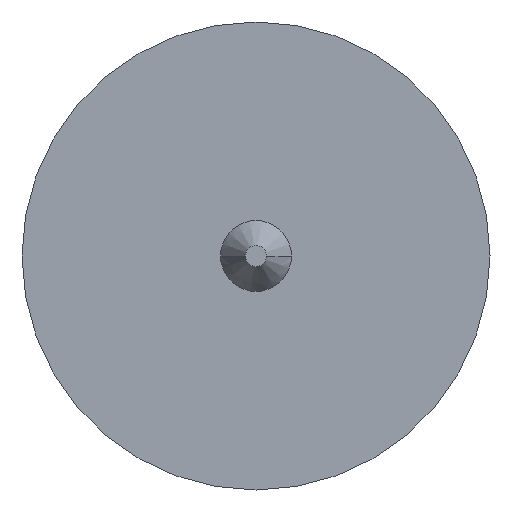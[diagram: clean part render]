
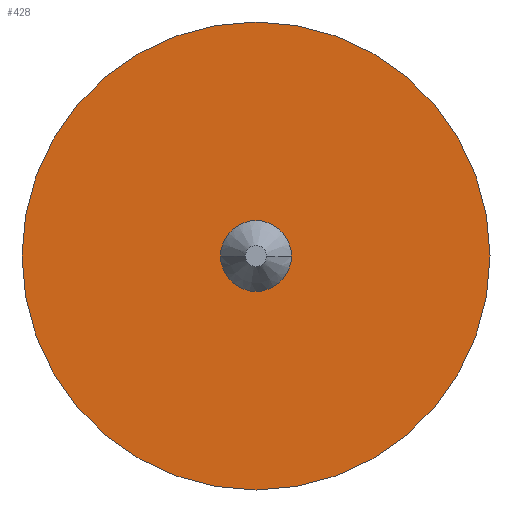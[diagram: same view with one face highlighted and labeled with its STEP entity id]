
A CAD part, front view. The second image highlights one B-rep face of the part: STEP entity #428.
In plain terms, the highlighted planar face has unit normal (0, -1, 0).
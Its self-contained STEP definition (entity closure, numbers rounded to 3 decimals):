
#71 = CARTESIAN_POINT ( 'NONE',  ( -25., -30., 0. ) ) ;
#77 = CARTESIAN_POINT ( 'NONE',  ( -165., -30., 0. ) ) ;
#84 = CARTESIAN_POINT ( 'NONE',  ( 0., -30., 0. ) ) ;
#85 = DIRECTION ( 'NONE',  ( 0., 1., 0. ) ) ;
#86 = DIRECTION ( 'NONE',  ( -1., 0., 0. ) ) ;
#87 = CARTESIAN_POINT ( 'NONE',  ( 0., -30., 0. ) ) ;
#88 = DIRECTION ( 'NONE',  ( 0., 1., 0. ) ) ;
#89 = DIRECTION ( 'NONE',  ( -1., 0., 0. ) ) ;
#125 = CARTESIAN_POINT ( 'NONE',  ( 78.654, -30., 0. ) ) ;
#128 = CARTESIAN_POINT ( 'NONE',  ( 0., -30., 0. ) ) ;
#129 = FACE_OUTER_BOUND ( 'NONE', #284, .T. ) ;
#130 = FACE_BOUND ( 'NONE', #275, .T. ) ;
#131 = PLANE ( 'NONE',  #205 ) ;
#133 = DIRECTION ( 'NONE',  ( 0., 1., 0. ) ) ;
#134 = DIRECTION ( 'NONE',  ( -1., 0., 0. ) ) ;
#153 = AXIS2_PLACEMENT_3D ( 'NONE', #84, #85, #86 ) ;
#158 = AXIS2_PLACEMENT_3D ( 'NONE', #87, #88, #89 ) ;
#169 = AXIS2_PLACEMENT_3D ( 'NONE', #324, #325, #326 ) ;
#171 = CIRCLE ( 'NONE', #169, 25. ) ;
#175 = AXIS2_PLACEMENT_3D ( 'NONE', #128, #314, #315 ) ;
#177 = CIRCLE ( 'NONE', #175, 165. ) ;
#205 = AXIS2_PLACEMENT_3D ( 'NONE', #125, #133, #134 ) ;
#209 = CIRCLE ( 'NONE', #158, 25. ) ;
#211 = CIRCLE ( 'NONE', #153, 165. ) ;
#243 = ORIENTED_EDGE ( 'NONE', *, *, #449, .T. ) ;
#244 = ORIENTED_EDGE ( 'NONE', *, *, #418, .T. ) ;
#245 = ORIENTED_EDGE ( 'NONE', *, *, #417, .F. ) ;
#246 = ORIENTED_EDGE ( 'NONE', *, *, #444, .F. ) ;
#275 = EDGE_LOOP ( 'NONE', ( #244, #243 ) ) ;
#279 = VERTEX_POINT ( 'NONE', #71 ) ;
#284 = EDGE_LOOP ( 'NONE', ( #246, #245 ) ) ;
#310 = VERTEX_POINT ( 'NONE', #77 ) ;
#314 = DIRECTION ( 'NONE',  ( 0., 1., 0. ) ) ;
#315 = DIRECTION ( 'NONE',  ( -1., 0., 0. ) ) ;
#324 = CARTESIAN_POINT ( 'NONE',  ( 0., -30., 0. ) ) ;
#325 = DIRECTION ( 'NONE',  ( 0., 1., 0. ) ) ;
#326 = DIRECTION ( 'NONE',  ( -1., 0., 0. ) ) ;
#341 = CARTESIAN_POINT ( 'NONE',  ( 165., -30., 0. ) ) ;
#346 = CARTESIAN_POINT ( 'NONE',  ( 25., -30., 0. ) ) ;
#417 = EDGE_CURVE ( 'NONE', #464, #310, #211, .T. ) ;
#418 = EDGE_CURVE ( 'NONE', #279, #461, #209, .T. ) ;
#428 = ADVANCED_FACE ( 'NONE', ( #129, #130 ), #131, .F. ) ;
#444 = EDGE_CURVE ( 'NONE', #310, #464, #177, .T. ) ;
#449 = EDGE_CURVE ( 'NONE', #461, #279, #171, .T. ) ;
#461 = VERTEX_POINT ( 'NONE', #346 ) ;
#464 = VERTEX_POINT ( 'NONE', #341 ) ;
